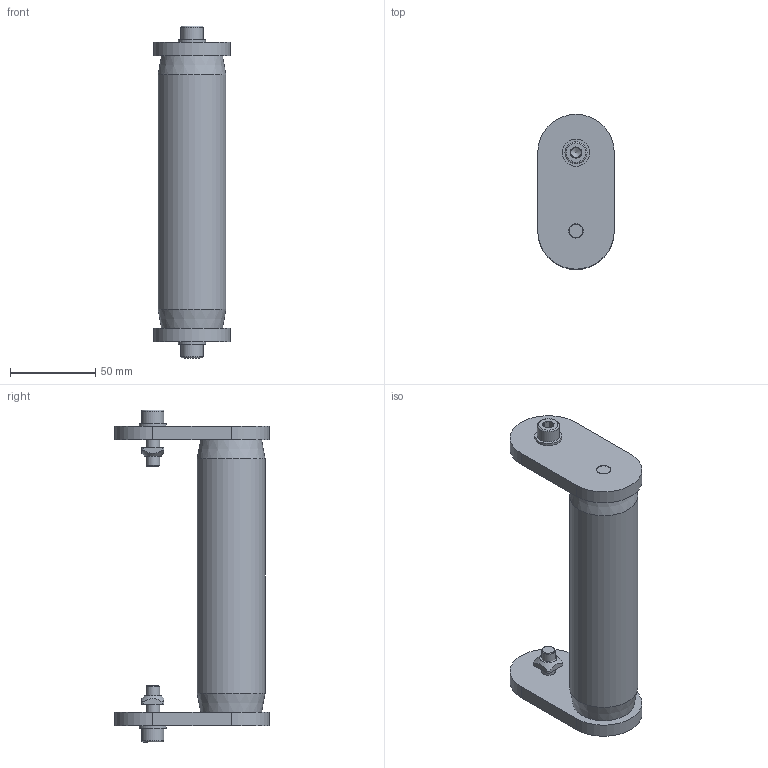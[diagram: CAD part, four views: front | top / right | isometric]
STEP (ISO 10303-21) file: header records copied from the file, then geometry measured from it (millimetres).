
FILE_DESCRIPTION (( 'STEP AP214' ), '1' );
FILE_NAME ('983-004-150.STEP', '2020-11-23T10:29:50', ( '' ), ( '' ), 'SwSTEP 2.0', 'SolidWorks 2020', '' );
FILE_SCHEMA (( 'AUTOMOTIVE_DESIGN' ));
Length unit declared in the file: millimetre
Products named in the file (8): 982-009; 982-010-150; CHC M8X25 + RP8; 983-003; RONDELLE_910-111; CHC THE_910-053H; 910-011; 983-004-150
Assembly tree (8 placements, depth 4):
  983-004-150
    983-003  x2
      982-009
      910-011
      CHC M8X25 + RP8
        CHC THE_910-053H
        RONDELLE_910-111
    982-010-150
Bounding box: 45 x 91 x 195.2 mm (x, y, z)
Volume: 261774.9 mm3; surface area: 45717.7 mm2
Topology: 9 solids, 9 shells, 119 faces, 261 edges, 166 vertices
Faces by surface type: plane 60, cylinder 33, cone 22, torus 4
Full cylindrical faces by diameter (mm): 6 x2, 6.8 x2, 7.98 x2, 8 x4, 8.4 x2, 8.5 x4, 13 x2, 16 x2, 40 x1
Entity records: 2038 total; most frequent: CARTESIAN_POINT 389, DIRECTION 312, ORIENTED_EDGE 228, AXIS2_PLACEMENT_3D 131, EDGE_CURVE 114, EDGE_LOOP 96, VERTEX_POINT 84, FACE_OUTER_BOUND 78
